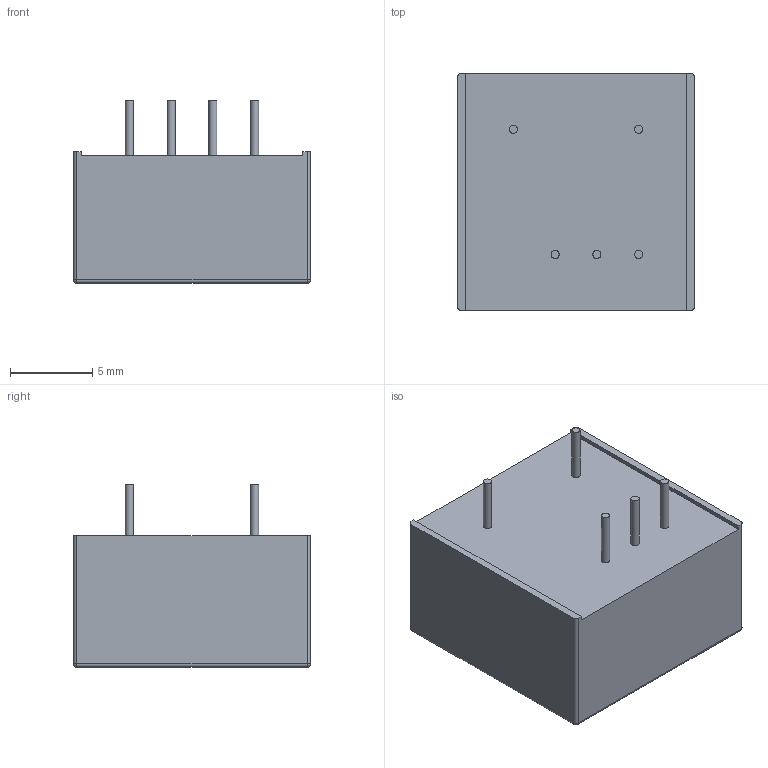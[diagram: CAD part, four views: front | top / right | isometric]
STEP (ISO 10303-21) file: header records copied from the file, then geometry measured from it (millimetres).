
FILE_DESCRIPTION(/* description */ (''),/* implementation_level */ '2;1');
FILE_NAME(/* name */ 'C:\Users\CALLIOPE\Documents\Inventor\機台模治具\型錄用3D尺寸外觀\型錄用-STEP檔\MFW02+MFW03.stp',/* time_stamp */ '2015-03-12T18:29:59+08:00',/* author */ ('CALLIOPE'),/* organization */ (''),/* preprocessor_version */ 'ST-DEVELOPER v15.6',/* originating_system */ 'Autodesk Inventor 2015',/* authorisation */ '');
FILE_SCHEMA (('AUTOMOTIVE_DESIGN { 1 0 10303 214 3 1 1 }'));
Length unit declared in the file: millimetre
Products named in the file (1): MFW02+MFW03
Bounding box: 14.4 x 14.4 x 11.1 mm (x, y, z)
Volume: 1612.7 mm3; surface area: 894.8 mm2
Topology: 1 solids, 1 shells, 34 faces, 70 edges, 40 vertices
Faces by surface type: plane 16, cylinder 14, sphere 4
Full cylindrical faces by diameter (mm): 0.5 x5, 1 x1
Entity records: 856 total; most frequent: DIRECTION 158, CARTESIAN_POINT 135, ORIENTED_EDGE 120, AXIS2_PLACEMENT_3D 63, EDGE_CURVE 60, EDGE_LOOP 46, VERTEX_POINT 40, FACE_OUTER_BOUND 34
